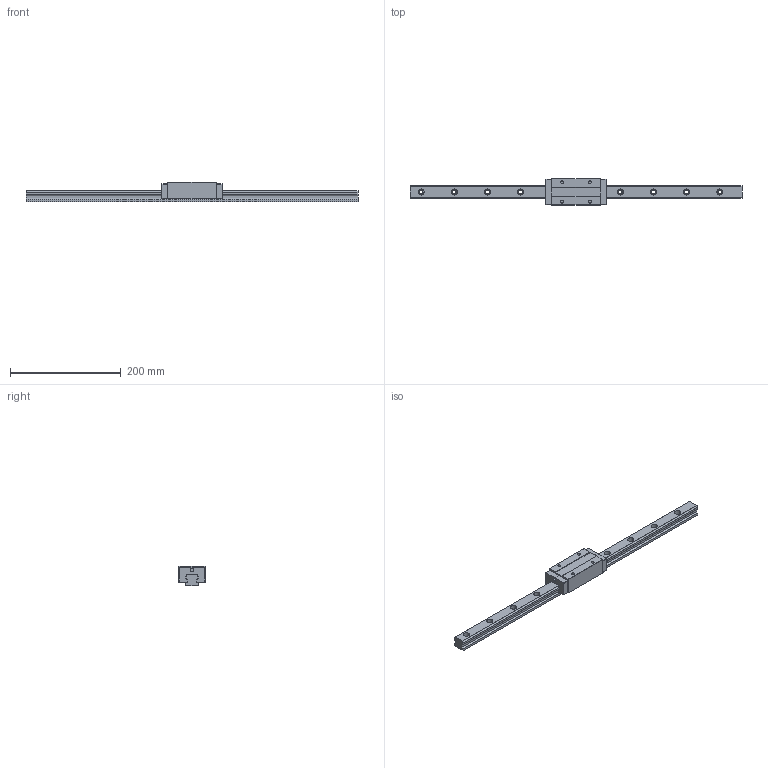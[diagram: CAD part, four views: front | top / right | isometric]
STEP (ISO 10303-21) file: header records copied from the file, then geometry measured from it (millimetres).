
FILE_DESCRIPTION (( 'STEP AP203' ), '1' );
FILE_NAME ('TRC25VE-XNC.STEP', '2024-08-16T07:38:46', ( '' ), ( '' ), 'SwSTEP 2.0', 'SolidWorks 2021', '' );
FILE_SCHEMA (( 'CONFIG_CONTROL_DESIGN' ));
Length unit declared in the file: millimetre
Products named in the file (1): TRC25VE-XNC
Bounding box: 600 x 48 x 36 mm (x, y, z)
Volume: 354155.1 mm3; surface area: 80062.3 mm2
Topology: 1 solids, 1 shells, 173 faces, 468 edges, 310 vertices
Faces by surface type: cylinder 88, plane 85
Entity records: 5613 total; most frequent: DIRECTION 994, CARTESIAN_POINT 952, ORIENTED_EDGE 936, EDGE_CURVE 468, AXIS2_PLACEMENT_3D 352, VERTEX_POINT 310, VECTOR 290, LINE 290
